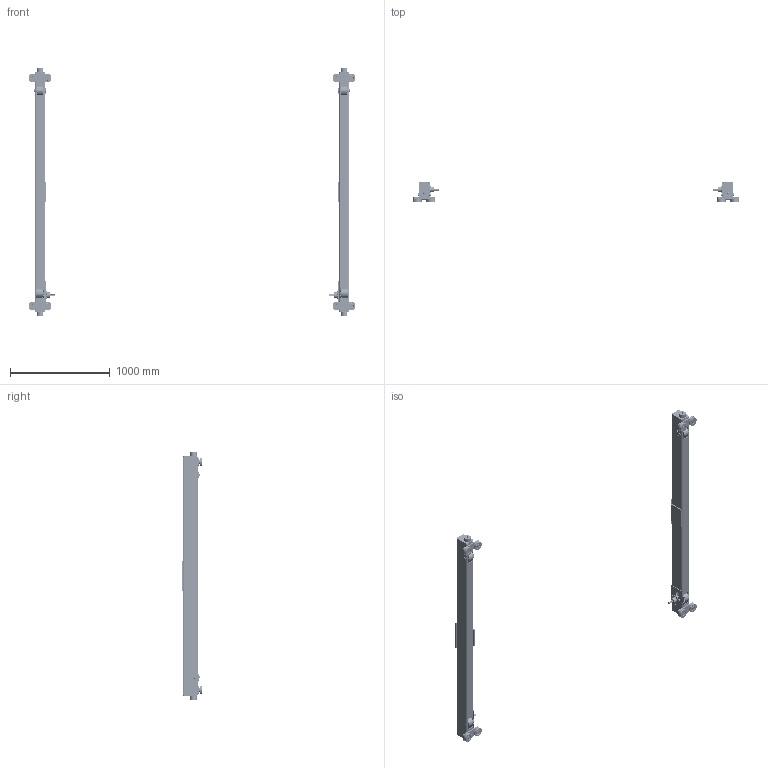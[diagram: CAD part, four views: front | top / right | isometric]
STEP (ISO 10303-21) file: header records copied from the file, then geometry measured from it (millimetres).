
FILE_DESCRIPTION (( 'STEP AP214' ), '1' );
FILE_NAME ('TG-3-0150.STEP', '2026-08-07T19:01:25', ( '' ), ( '' ), 'SwSTEP 2.0', 'SolidWorks 2026', '' );
FILE_SCHEMA (( 'AUTOMOTIVE_DESIGN' ));
Length unit declared in the file: inch
Products named in the file (47): 9047125_B27.7M - 3AM1-23; N6Q0310E9102_Domestic; 6240813; 9047120_9047120; 9000504; 6240822; 9093101_9093101; 6240814; N6GO310V5303; 9012514_9012514; N6QO310E9108_N6QO3101108 DOMESTIC; N6QO3101102; 6240823; T600-400-004 sp_94.125; 9047242_9047242; 6232305; T600-400-004_94.125; N6QO310E91012; 6232404; 6240817X_6240817A; N6GO310303; 6240804; 9047252_9047252; 9000605; TG-3-0150; 6240802; 6240803; T7G117020; 6240826; N6GO310306; 9093327_9093327; 62394_6239402; 62393_6239302; 62395_0145-0150-0160 - 25# RAIL; 9000705; N6GO310V301; 6240805X_6240805A; N6QO3101108_N6QO3101108; 6240825; 9093328_9093328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
Assembly tree (129 placements, depth 4):
  TG-3-0150
    62395_0145-0150-0160 - 25# RAIL
      62393_6239302
        T600-400-004_94.125
        6240822
        6240823
      6240806  x2
      6240817X_6240817A  x2
        6240805X_6240805A
        6232305
      6240813
      T7G117020
      6240802
      6240803
      6240804
    62396_0145-0150-0160 - 25# RAIL
      62394_6239402
        T600-400-004 sp_94.125
        6240822
        6240823
      6240806  x2
      6240813
      6240817X_6240817A  x2
        6240805X_6240805A
        6232305
      T7G117020
      6240802
      6240803
      6240804
    6240814  x4
    6240825  x2
    6240826  x2
    9012711_9012711  x18
    9093327_9093327  x6
    N6QL210207  x4
    9012514_9012514  x4
    9093101_9093101  x4
    N6QO3101108_N6QO3101108  x8
      N6QO310E9108_N6QO3101108 DOMESTIC
      9047252_9047252
      9000605
    6232404  x8
    9047125_B27.7M - 3AM1-23  x8
    N6QO3101102  x2
      N6Q0310E9102_Domestic
      9000705
    N6QO3101101  x2
      N6QO310E91012
      9000705
    N6GO310V5303  x2
      N6GO310303
      9047120_9047120
      9047242_9047242
      N6GO310306
      N6GO310V301
      9000504
    9093328_9093328  x8
Bounding box: 3275.41 x 207.96 x 2487.82 mm (x, y, z)
Volume: 20122190.4 mm3; surface area: 6161381.3 mm2
Topology: 130 solids, 210 shells, 12366 faces, 33056 edges, 21974 vertices
Faces by surface type: plane 8246, cylinder 2044, bspline 1420, cone 480, torus 176
Entity records: 117147 total; most frequent: CARTESIAN_POINT 50736, ORIENTED_EDGE 14490, DIRECTION 11897, EDGE_CURVE 7251, VERTEX_POINT 4810, AXIS2_PLACEMENT_3D 4193, VECTOR 3511, LINE 3511
